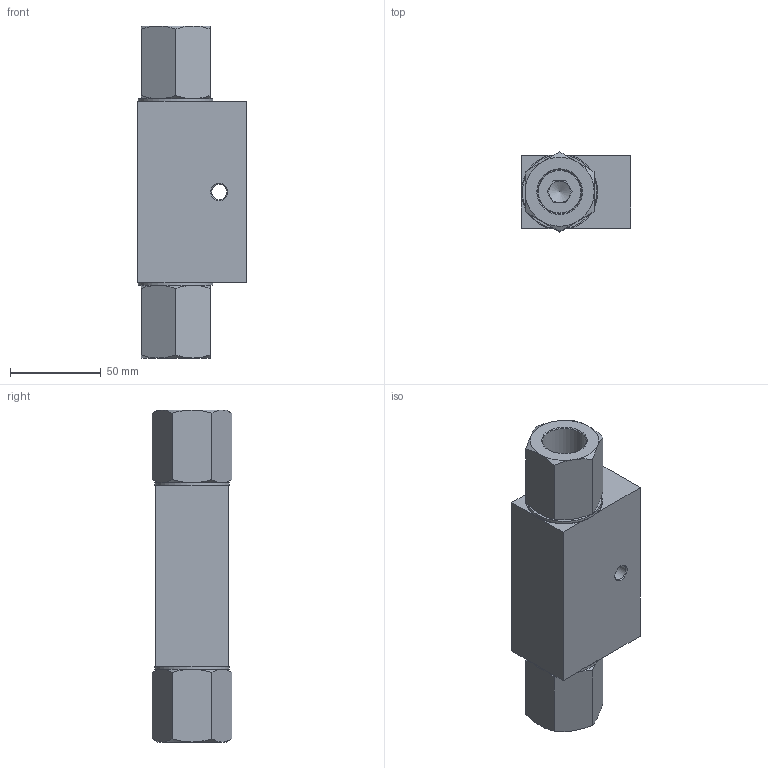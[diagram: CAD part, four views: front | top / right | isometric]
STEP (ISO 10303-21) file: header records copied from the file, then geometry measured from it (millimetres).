
FILE_DESCRIPTION(/* description */ (''),/* implementation_level */ '2;1');
FILE_NAME(/* name */ 'C:\Users\fabio.radici\Desktop\x fede\003-033-0J0_Shrinkwrap.stp',/* time_stamp */ '2021-03-30T17:58:44+02:00',/* author */ ('fabio.radici'),/* organization */ (''),/* preprocessor_version */ 'ST-DEVELOPER v18.1',/* originating_system */ 'Autodesk Inventor 2021',/* authorisation */ '');
FILE_SCHEMA (('AUTOMOTIVE_DESIGN { 1 0 10303 214 3 1 1 }'));
Length unit declared in the file: millimetre
Products named in the file (1): 003-033-0J0_Shrinkwrap
Bounding box: 60 x 43.88 x 182.6 mm (x, y, z)
Surface area: 57374.3 mm2 (no closed solid volume)
Topology: 0 solids, 13 shells, 101 faces, 271 edges, 173 vertices
Faces by surface type: cone 40, plane 36, cylinder 25
Full cylindrical faces by diameter (mm): 8.5 x1, 9 x2, 12 x4, 24.117 x4, 30.291 x2, 33.249 x2, 36 x2, 41 x2
Entity records: 3595 total; most frequent: CARTESIAN_POINT 978, DIRECTION 520, ORIENTED_EDGE 480, EDGE_CURVE 269, AXIS2_PLACEMENT_3D 213, VERTEX_POINT 173, EDGE_LOOP 120, CIRCLE 111
